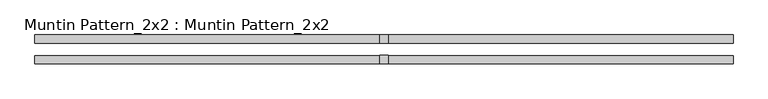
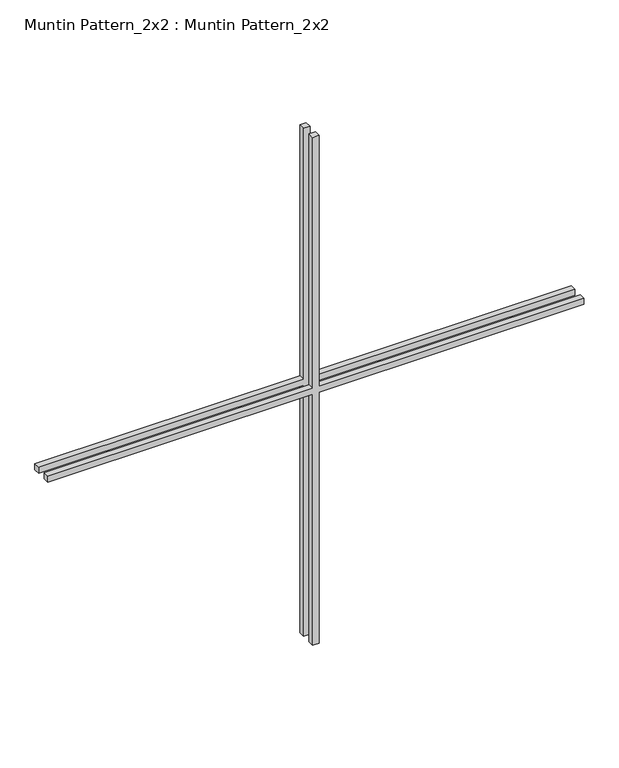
"""IFC4 building model written with IfcOpenShell, lengths in millimetres: proxy geometry, Muntin Pattern_2x2 : Muntin Pattern_2x2."""

from ifc_helpers import new_model, si_unit, frame, origin, place, context, project, spatial, polyline, outline, extrude, source, transform, mapped, element, save


def muntin_pattern_2x2_muntin_pattern_2x2_8235f178(model_context):
    return source(origin(), model_context, "Body", "SweptSolid", [
        extrude(outline(polyline([(546.1, -6.35), (546.1, -539.75), (533.4, -539.75), (533.4, -6.35), (0.0, -6.35), (0.0, 6.35), (533.4, 6.35), (533.4, 539.75), (546.1, 539.75), (546.1, 6.35), (1079.5, 6.35), (1079.5, -6.35), (546.1, -6.35)])), frame((0.0, 9.525, 0.0), z_axis=(0.0, 1.0, 0.0), x_axis=(0.0, 0.0, 1.0)), (0.0, 0.0, 1.0), 12.7),
        extrude(outline(polyline([(546.1, -6.35), (546.1, -539.75), (533.4, -539.75), (533.4, -6.35), (0.0, -6.35), (0.0, 6.35), (533.4, 6.35), (533.4, 539.75), (546.1, 539.75), (546.1, 6.35), (1079.5, 6.35), (1079.5, -6.35), (546.1, -6.35)])), frame((0.0, -22.225, 0.0), z_axis=(0.0, 1.0, 0.0), x_axis=(0.0, 0.0, 1.0)), (0.0, 0.0, 1.0), 12.7),
    ])


if __name__ == "__main__":
    model = new_model("IFC4")
    model_context = context("Model", 3, world=origin())
    ifc_project = project(units=[si_unit("LENGTHUNIT", "METRE", prefix="MILLI")], contexts=[model_context])
    site = spatial("IfcSite", under=ifc_project)
    building = spatial("IfcBuilding", under=site)
    placement = place(None, origin())
    muntin_pattern_2x2_muntin_pattern_2x2_shape = muntin_pattern_2x2_muntin_pattern_2x2_8235f178(model_context)
    element("IfcBuildingElementProxy", 1, Name="Muntin Pattern_2x2 : Muntin Pattern_2x2", ObjectType="Muntin Pattern_2x2 : Muntin Pattern_2x2", at=placement, inside=building, context=model_context, shape_type="MappedRepresentation", body=[
        mapped(muntin_pattern_2x2_muntin_pattern_2x2_shape, transform((0.0, 0.0, 0.0), x_axis=(1.0, 0.0, 0.0), y_axis=(0.0, 1.0, 0.0), z_axis=(0.0, 0.0, 1.0))),
    ])
    save(model, "model.ifc")
